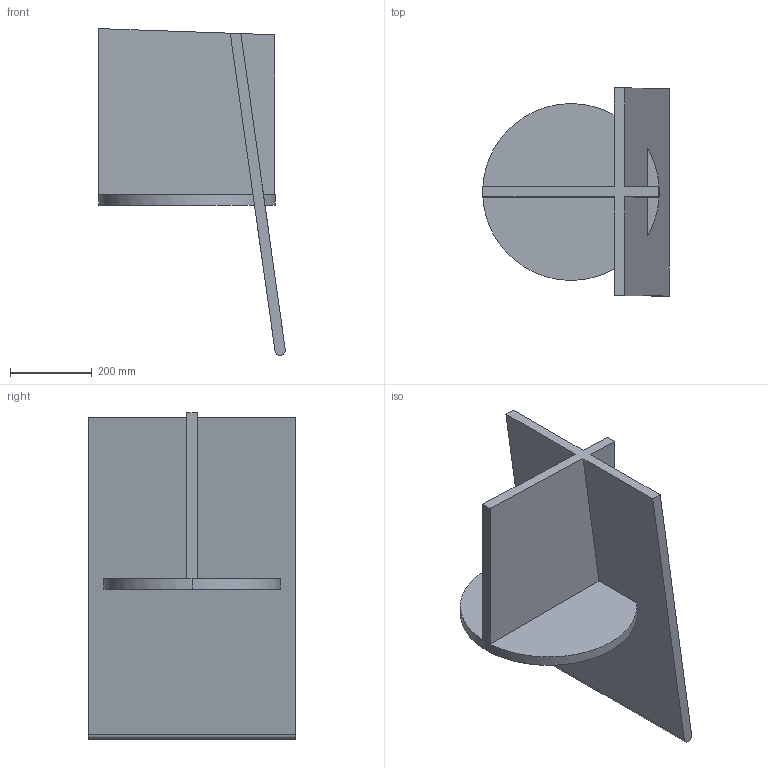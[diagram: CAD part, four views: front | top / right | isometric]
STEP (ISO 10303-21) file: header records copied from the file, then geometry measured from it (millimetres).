
FILE_DESCRIPTION (( 'STEP AP214' ), '1' );
FILE_NAME ('Three Plane Chair_Campagna_STP.STEP', '2021-04-09T19:01:28', ( '' ), ( '' ), 'SwSTEP 2.0', 'SolidWorks 2021', '' );
FILE_SCHEMA (( 'AUTOMOTIVE_DESIGN' ));
Length unit declared in the file: millimetre
Products named in the file (1): Three Plane Chair_Campagna_STP
Bounding box: 456.49 x 508 x 799.53 mm (x, y, z)
Volume: 17894400 mm3; surface area: 1492118.7 mm2
Topology: 1 solids, 1 shells, 19 faces, 51 edges, 34 vertices
Faces by surface type: plane 15, cylinder 4
Entity records: 825 total; most frequent: CARTESIAN_POINT 117, ORIENTED_EDGE 102, DIRECTION 95, EDGE_CURVE 51, VECTOR 39, LINE 39, VERTEX_POINT 34, AXIS2_PLACEMENT_3D 28
